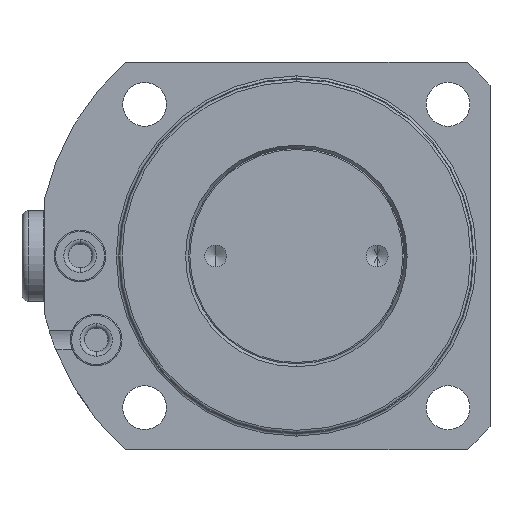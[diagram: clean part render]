
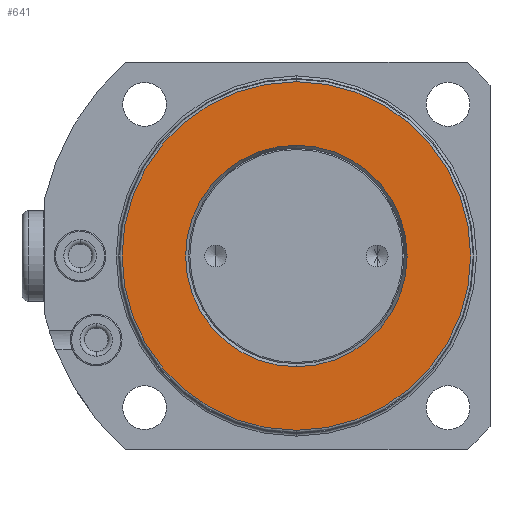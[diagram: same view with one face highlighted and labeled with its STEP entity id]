
A CAD part, front view. The second image highlights one B-rep face of the part: STEP entity #641.
In plain terms, the highlighted planar face has unit normal (0, -1, 0).
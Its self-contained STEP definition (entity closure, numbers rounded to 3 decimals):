
#371=PLANE('',#4024);
#429=FACE_BOUND('',#1159,.T.);
#430=FACE_BOUND('',#1160,.T.);
#641=ADVANCED_FACE('',(#429,#430),#371,.T.);
#1159=EDGE_LOOP('',(#2190,#2191));
#1160=EDGE_LOOP('',(#2192,#2193));
#2190=ORIENTED_EDGE('',*,*,#3186,.T.);
#2191=ORIENTED_EDGE('',*,*,#3254,.T.);
#2192=ORIENTED_EDGE('',*,*,#3181,.F.);
#2193=ORIENTED_EDGE('',*,*,#3255,.F.);
#2791=VERTEX_POINT('',#6336);
#2792=VERTEX_POINT('',#6337);
#2795=VERTEX_POINT('',#6345);
#2796=VERTEX_POINT('',#6347);
#3181=EDGE_CURVE('',#2791,#2792,#3555,.T.);
#3186=EDGE_CURVE('',#2796,#2795,#3559,.T.);
#3254=EDGE_CURVE('',#2795,#2796,#3595,.T.);
#3255=EDGE_CURVE('',#2792,#2791,#3596,.T.);
#3555=CIRCLE('',#3965,27.);
#3559=CIRCLE('',#3970,17.162);
#3595=CIRCLE('',#4021,17.162);
#3596=CIRCLE('',#4023,27.);
#3965=AXIS2_PLACEMENT_3D('',#6335,#4880,#4881);
#3970=AXIS2_PLACEMENT_3D('',#6346,#4891,#4892);
#4021=AXIS2_PLACEMENT_3D('',#6523,#5012,#5013);
#4023=AXIS2_PLACEMENT_3D('',#6525,#5016,#5017);
#4024=AXIS2_PLACEMENT_3D('',#6526,#5018,#5019);
#4880=DIRECTION('',(0.,1.,0.));
#4881=DIRECTION('',(0.,0.,1.));
#4891=DIRECTION('',(0.,1.,0.));
#4892=DIRECTION('',(0.,0.,1.));
#5012=DIRECTION('',(0.,1.,0.));
#5013=DIRECTION('',(0.,0.,1.));
#5016=DIRECTION('',(0.,1.,0.));
#5017=DIRECTION('',(0.,0.,1.));
#5018=DIRECTION('',(0.,-1.,0.));
#5019=DIRECTION('',(0.,0.,1.));
#6335=CARTESIAN_POINT('',(0.,1.087,0.));
#6336=CARTESIAN_POINT('',(0.,1.087,27.));
#6337=CARTESIAN_POINT('',(0.,1.087,-27.));
#6345=CARTESIAN_POINT('',(0.,1.087,17.162));
#6346=CARTESIAN_POINT('',(0.,1.087,0.));
#6347=CARTESIAN_POINT('',(0.,1.087,-17.162));
#6523=CARTESIAN_POINT('',(0.,1.087,0.));
#6525=CARTESIAN_POINT('',(0.,1.087,0.));
#6526=CARTESIAN_POINT('',(0.,1.087,0.));
